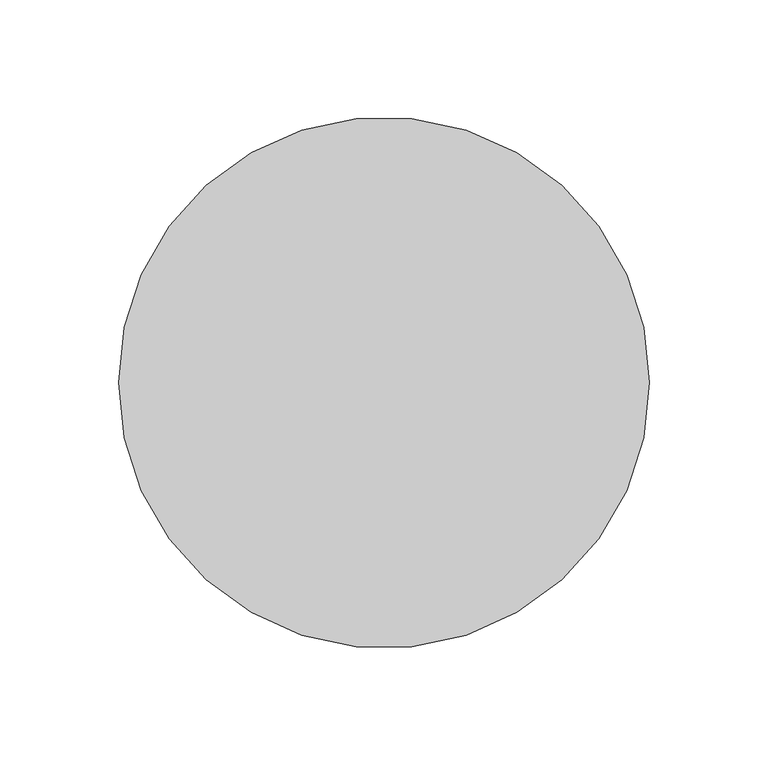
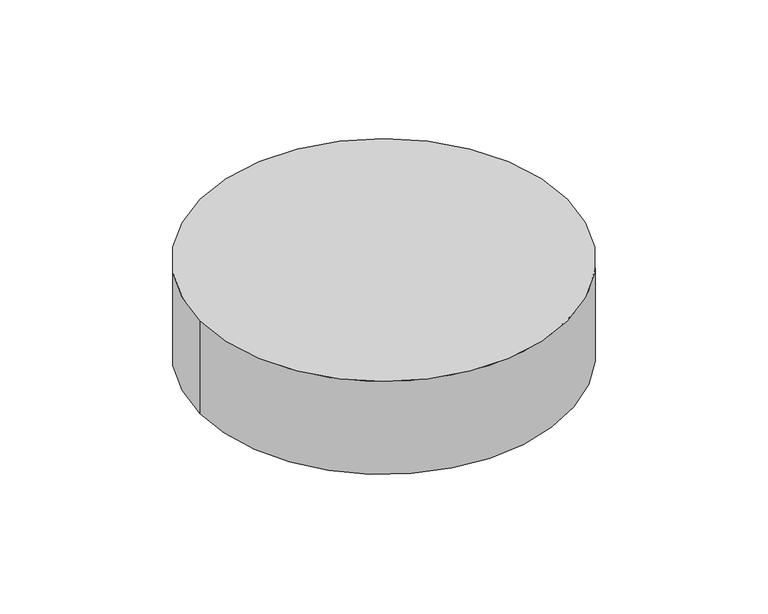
"""IFC4 building model written with IfcOpenShell, lengths in millimetres: light fixture geometry, GENILED_Светильник светодиодный_Ceiling Накладной : Сейлинг накладного монтажа d224 h60 30Вт 90Ra Белый."""

from ifc_helpers import new_model, si_unit, point, frame, origin, origin_with_axes, origin_2d, place, context, project, spatial, polyline, circle_curve, trimmed, segment, composite_curve, outline, extrude, source, transform, mapped, element, save
from ifc_brep_helpers import plane_surface, cylinder_surface, revolved_surface, advanced_brep


def light_fixture_77212832(model_context):
    return source(origin(), model_context, "Body", "SolidModel", [
        advanced_brep(
        [(-112.0, 0.0, 60.0), (112.0, 0.0, 60.0), (-112.0, 0.0, 0.0), (112.0, 0.0, 0.0), (-92.0, 0.0, 0.0), (92.0, 0.0, 0.0), (-92.0, 0.0, 4.0), (92.0, 0.0, 4.0)],
        [
            (0, 1, circle_curve(frame((0.0, 0.0, 60.0), z_axis=(0.0, 0.0, 1.0), x_axis=(1.0, 0.0, 0.0)), 112.0)),
            (1, 0, circle_curve(frame((0.0, 0.0, 60.0), z_axis=(0.0, 0.0, 1.0), x_axis=(1.0, 0.0, 0.0)), 112.0)),
            (2, 3, circle_curve(frame((0.0, 0.0, 0.0), z_axis=(0.0, 0.0, -1.0), x_axis=(1.0, 0.0, 0.0)), 112.0)),
            (3, 2, circle_curve(frame((0.0, 0.0, 0.0), z_axis=(0.0, 0.0, -1.0), x_axis=(1.0, 0.0, 0.0)), 112.0)),
            (4, 5, circle_curve(origin_with_axes(), 92.0)),
            (5, 4, circle_curve(origin_with_axes(), 92.0)),
            (0, 2),
            (3, 1),
            (6, 7, circle_curve(frame((0.0, 0.0, 4.0), z_axis=(0.0, 0.0, -1.0), x_axis=(1.0, 0.0, 0.0)), 92.0)),
            (7, 6, circle_curve(frame((0.0, 0.0, 4.0), z_axis=(0.0, 0.0, -1.0), x_axis=(1.0, 0.0, 0.0)), 92.0)),
            (7, 5),
            (4, 6),
        ],
        [
            plane_surface(frame((112.0, 0.0, 60.0), z_axis=(0.0, 0.0, 1.0), x_axis=(0.0, 1.0, 0.0))),
            plane_surface(frame((112.0, 0.0, 0.0), z_axis=(0.0, 0.0, -1.0), x_axis=(0.0, -1.0, 0.0))),
            cylinder_surface(origin_with_axes(), 112.0),
            plane_surface(frame((92.0, 0.0, 4.0), z_axis=(0.0, 0.0, -1.0), x_axis=(0.0, 1.0, 0.0))),
            revolved_surface(polyline([(92.0, 0.0, 4.0), (92.0, 0.0, 0.0)]), (0.0, 0.0, 0.0), (0.0, 0.0, 1.0)),
        ],
        [
            (0, [[1, 2]]),
            (1, [[3, 4], [5, 6]]),
            (2, [[-1, 7, -4, 8]]),
            (2, [[-2, -8, -3, -7]]),
            (3, [[9, 10]]),
            (4, [[-10, 11, -5, 12]]),
            (4, [[-9, -12, -6, -11]]),
        ],
    ),
        extrude(outline(composite_curve([segment(trimmed(circle_curve(origin_2d(), 92.0), [point((-92.0, 0.0))], [point((92.0, 0.0))], False, "CARTESIAN"), True, "CONTINUOUS"), segment(trimmed(circle_curve(origin_2d(), 92.0), [point((92.0, 0.0))], [point((-92.0, 0.0))], False, "CARTESIAN"), True, "CONTINUOUS")], self_intersect=False)), frame((0.0, 0.0, 2.0), z_axis=(0.0, 0.0, 1.0), x_axis=(1.0, 0.0, 0.0)), (0.0, 0.0, 1.0), 2.0),
    ])


if __name__ == "__main__":
    model = new_model("IFC4")
    model_context = context("Model", 3, world=origin())
    ifc_project = project(units=[si_unit("LENGTHUNIT", "METRE", prefix="MILLI")], contexts=[model_context])
    site = spatial("IfcSite", under=ifc_project)
    building = spatial("IfcBuilding", under=site)
    placement = place(None, origin())
    light_fixture_shape = light_fixture_77212832(model_context)
    element("IfcLightFixture", 1, ObjectType="GENILED_Светильник светодиодный_Ceiling Накладной : Сейлинг накладного монтажа d224 h60 30Вт 90Ra Белый", at=placement, inside=building, context=model_context, shape_type="MappedRepresentation", body=[
        mapped(light_fixture_shape, transform((0.0, 0.0, 0.0), x_axis=(1.0, 0.0, 0.0), y_axis=(0.0, 1.0, 0.0), z_axis=(0.0, 0.0, 1.0))),
    ])
    save(model, "model.ifc")
